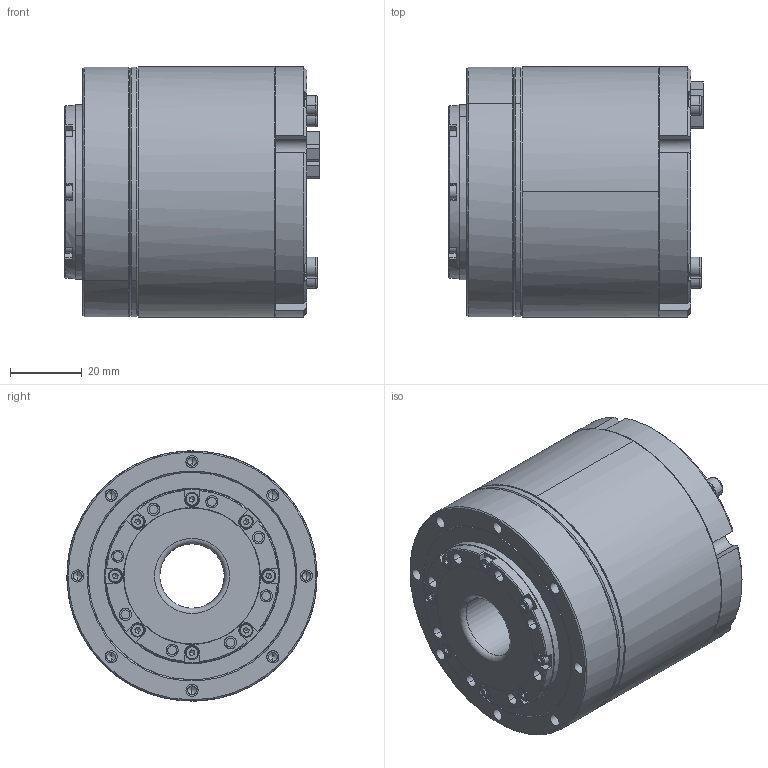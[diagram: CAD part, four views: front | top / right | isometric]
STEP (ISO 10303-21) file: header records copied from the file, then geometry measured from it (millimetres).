
FILE_DESCRIPTION (( 'STEP AP203' ), '1' );
FILE_NAME ('eRob70F｡ﾁ｡ﾁI-B-XX-18EX_V3_MC2A.9X.XX.STEP', '2025-04-02T07:47:43', ( 'Windows User' ), ( 'P R C' ), 'SwSTEP 2.0', 'SolidWorks 2021', '' );
FILE_SCHEMA (( 'CONFIG_CONTROL_DESIGN' ));
Length unit declared in the file: millimetre
Products named in the file (1): eRob70F××I-B-XX-18EX_V3_MC2A.9X.XX
Bounding box: 71.1 x 70 x 70 mm (x, y, z)
Volume: 214550 mm3; surface area: 43156.4 mm2
Topology: 1 solids, 23 shells, 2464 faces, 6592 edges, 4292 vertices
Faces by surface type: plane 1623, cylinder 486, bspline 212, cone 108, torus 35
Full cylindrical faces by diameter (mm): 2.5 x16, 18 x1
Entity records: 102764 total; most frequent: CARTESIAN_POINT 54323, ORIENTED_EDGE 12974, EDGE_CURVE 6487, B_SPLINE_CURVE_WITH_KNOTS 6122, DIRECTION 4971, VERTEX_POINT 4275, EDGE_LOOP 2798, FACE_OUTER_BOUND 2482
